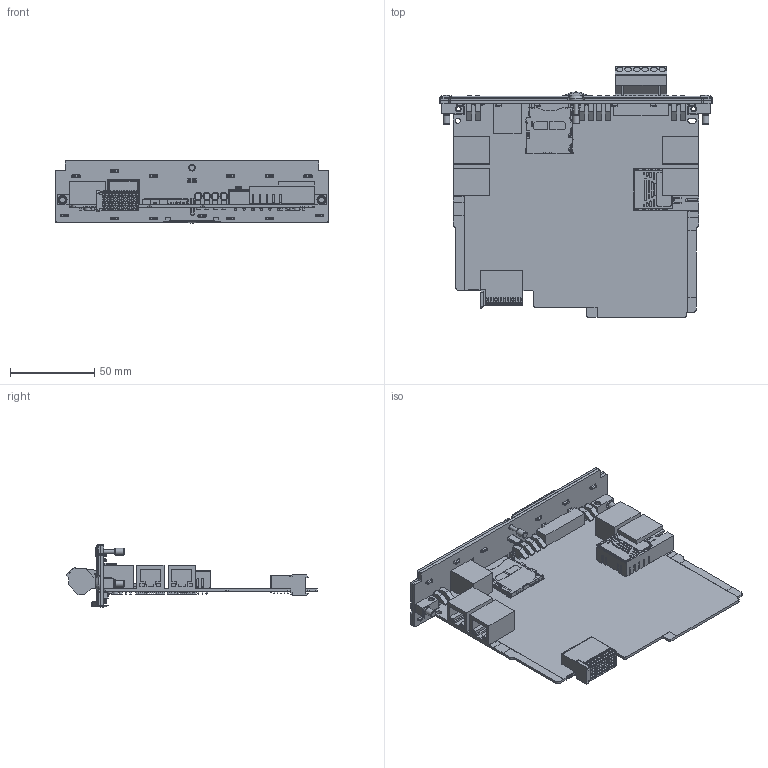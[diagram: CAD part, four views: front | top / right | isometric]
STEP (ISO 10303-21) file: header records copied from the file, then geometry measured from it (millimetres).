
FILE_DESCRIPTION(/* description */ (''),/* implementation_level */ '2;1');
FILE_NAME(/* name */ 'PCM3.1_3D CAD_20250228.stp',/* time_stamp */ '2025-02-28T10:13:26+01:00',/* author */ ('DSP'),/* organization */ (''),/* preprocessor_version */ 'ST-DEVELOPER v19.2',/* originating_system */ 'Autodesk Inventor 2023',/* authorisation */ '');
FILE_SCHEMA (('AUTOMOTIVE_DESIGN { 1 0 10303 214 3 1 1 }'));
Products named in the file (1): PCM3.1_3D CAD_SMPL_20250228
Bounding box: 162 x 149.2 x 37.1 mm (x, y, z)
Volume: 93012.9 mm3; surface area: 73333.8 mm2
Topology: 1 solids, 1 shells, 4028 faces, 10419 edges, 6584 vertices
Faces by surface type: plane 2690, cylinder 850, cone 201, bspline 150, torus 113, sphere 24
Full cylindrical faces by diameter (mm): 0.47 x18, 0.8 x8, 0.9 x40, 1 x20, 1.283 x2, 1.4 x1, 1.6 x6, 1.7 x10, 2.2 x8, 2.3 x8, 2.459 x2, 2.5 x3, 3 x11, 3.05 x1, 3.2 x10, 3.242 x2, 3.3 x1, 4 x9, 4.4 x2, 4.5 x8, 5 x1, 5.5 x2, 8 x3
Entity records: 134468 total; most frequent: CARTESIAN_POINT 31747, ORIENTED_EDGE 20658, DIRECTION 19923, EDGE_CURVE 10329, LINE 7601, VECTOR 7601, VERTEX_POINT 6584, AXIS2_PLACEMENT_3D 6161
